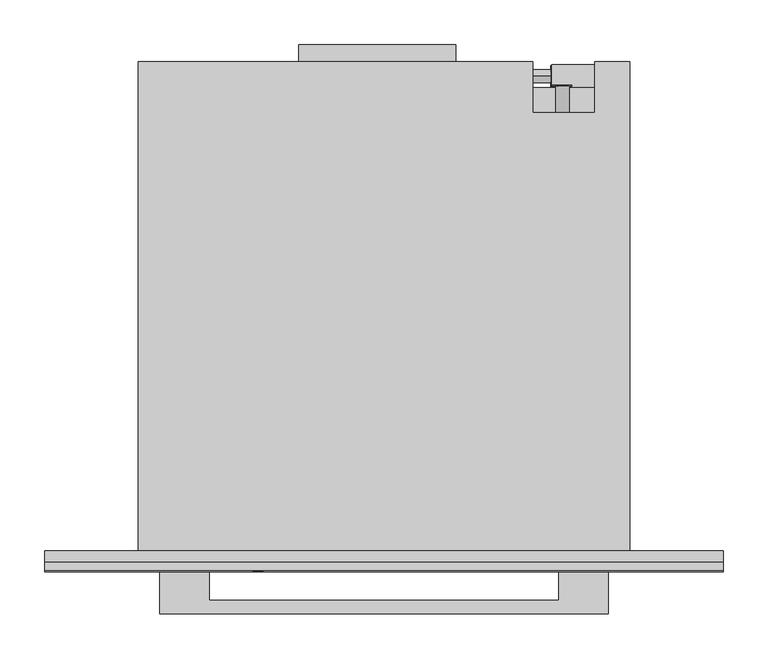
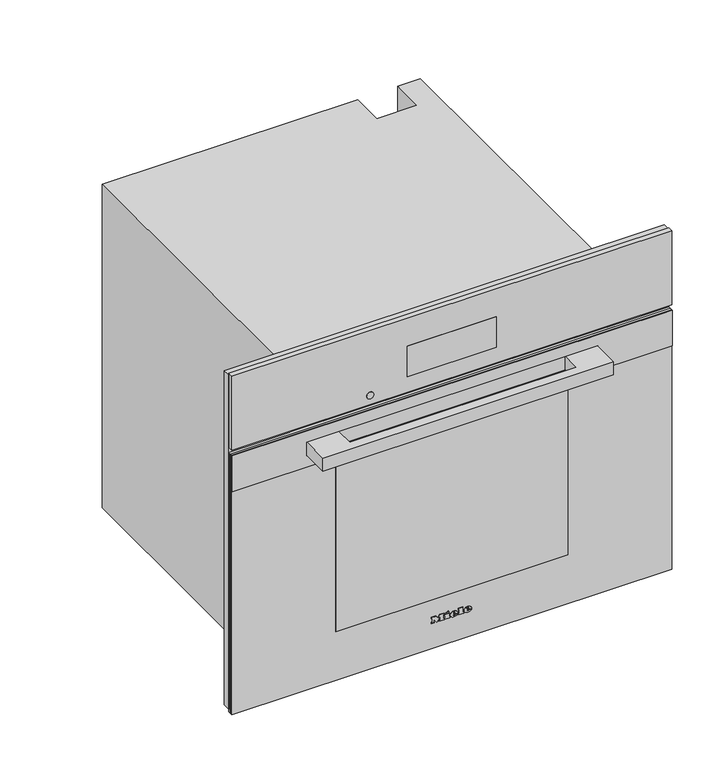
"""IFC4 building model written with IfcOpenShell, lengths in millimetres: proxy geometry, 11876310_USA_DGC7885_EDST-CLST : 23788543_USA_11876310_DGC7885_EDST-CLST."""

from ifc_helpers import new_model, si_unit, point, frame, frame_2d, origin, place, context, project, spatial, polyline, circle_curve, ellipse_curve, trimmed, segment, composite_curve, outline, extrude, faceted_brep, source, transform, mapped, element, save
from ifc_brep_helpers import plane_surface, cylinder_surface, revolved_surface, extruded_surface, advanced_brep


def specialty_equipment_7e705cc3(model_context):
    return source(origin(), model_context, "Body", "SolidModel", [
        faceted_brep([(378.5, -13.0, 617.0), (-378.5, -13.0, 617.0), (-378.5, -13.0, 9.0), (-272.5, -13.0, 9.0), (-272.5, -13.0, 485.0), (272.5, -13.0, 485.0), (272.5, -13.0, 9.0), (378.5, -13.0, 9.0), (378.5, 0.0, 617.0), (378.5, 0.0, 9.0), (-378.5, 0.0, 9.0), (-378.5, 0.0, 617.0), (231.0, 0.0, 61.0), (231.0, 0.0, 411.0), (-231.0, 0.0, 411.0), (-231.0, 0.0, 61.0), (272.5, -5.0, 9.0), (-272.5, -5.0, 9.0), (-272.5, -5.0, 485.0), (272.5, -5.0, 485.0), (231.0, -5.0, 411.0), (231.0, -5.0, 61.0), (-231.0, -5.0, 61.0), (-231.0, -5.0, 411.0)], [[[0, 1, 2, 3, 4, 5, 6, 7]], [[8, 9, 10, 11], [12, 13, 14, 15]], [[1, 0, 8, 11]], [[2, 1, 11, 10]], [[10, 9, 7, 6, 16, 17, 3, 2]], [[0, 7, 9, 8]], [[18, 19, 5, 4]], [[18, 4, 3, 17]], [[5, 19, 16, 6]], [[19, 18, 17, 16], [20, 21, 22, 23]], [[20, 13, 12, 21]], [[21, 12, 15, 22]], [[22, 15, 14, 23]], [[13, 20, 23, 14]]]),
        extrude(outline(polyline([(-95.0, 565.0), (80.0, 565.0), (80.0, 546.0), (-95.0, 546.0), (-95.0, 565.0)])), frame((0.0, 0.0, 311.0), z_axis=(0.0, 0.0, 1.0), x_axis=(1.0, 0.0, 0.0)), (0.0, 0.0, 1.0), 1.0),
        extrude(outline(polyline([(218.8383288, 522.0), (225.1236409, 522.0), (225.1236409, 511.9492425), (223.8571792, 511.9492425), (223.8571792, 520.7409796), (218.8383288, 520.7409796), (218.8383288, 522.0)])), frame((0.0, 0.0, 272.0), z_axis=(0.0, 0.0, 1.0), x_axis=(1.0, 0.0, 0.0)), (0.0, 0.0, 1.0), 1.0),
        extrude(outline(polyline([(227.0, 522.0), (234.3797826, 522.0), (234.3797826, 511.9503529), (227.15422, 511.9503529), (227.15422, 513.220938), (233.1355215, 513.220938), (233.1355215, 516.1975645), (227.4863097, 516.1975645), (227.4863097, 517.449242), (233.1355215, 517.449242), (233.1355215, 520.7448633), (227.0, 520.7448633), (227.0, 522.0)])), frame((0.0, 0.0, 272.0), z_axis=(0.0, 0.0, 1.0), x_axis=(1.0, 0.0, 0.0)), (0.0, 0.0, 1.0), 1.0),
        extrude(outline(polyline([(519.6429442, 19.9943805), (518.3113439, 19.9943805), (522.3179353, 30.0448542), (523.3959224, 30.0448542), (527.4062166, 20.0), (526.0536081, 20.0), (524.9175759, 23.121223), (520.7810217, 23.121223), (519.6429442, 19.9943805)]), holes=[polyline([(521.2587176, 24.4336815), (524.43988, 24.4336815), (522.8492988, 28.8037675), (521.2587176, 24.4336815)])]), frame((186.0, 0.0, 0.0), z_axis=(1.0, 0.0, 0.0), x_axis=(0.0, 1.0, 0.0)), (0.0, 0.0, 1.0), 1.0),
        extrude(outline(polyline([(530.5321321, 20.0), (527.8018067, 30.0490432), (529.0968223, 30.0490432), (531.1602937, 21.4201336), (533.686646, 30.0556718), (535.5455392, 30.0556718), (538.1024658, 21.4662572), (540.1658975, 30.0556718), (541.4634812, 30.0556718), (538.7128319, 20.0), (537.3799359, 20.0), (534.6350025, 28.8403806), (532.048723, 20.0), (530.5321321, 20.0)])), frame((186.0, 0.0, 0.0), z_axis=(1.0, 0.0, 0.0), x_axis=(0.0, 1.0, 0.0)), (0.0, 0.0, 1.0), 1.0),
        extrude(outline(composite_curve([segment(trimmed(circle_curve(frame_2d((227.0, 517.0)), 7.5), [point((219.5, 517.0))], [point((234.5, 517.0))], False, "CARTESIAN"), True, "CONTINUOUS"), segment(trimmed(circle_curve(frame_2d((227.0, 517.0)), 7.5), [point((234.5, 517.0))], [point((219.5, 517.0))], False, "CARTESIAN"), True, "CONTINUOUS")], self_intersect=False)), frame((0.0, 0.0, 273.0), z_axis=(0.0, 0.0, 1.0), x_axis=(1.0, 0.0, 0.0)), (0.0, 0.0, 1.0), 30.0),
        extrude(outline(polyline([(266.0, 517.0), (187.0, 517.0), (187.0, 543.0), (266.0, 543.0), (266.0, 517.0)])), frame((0.0, 0.0, 303.0), z_axis=(0.0, 0.0, 1.0), x_axis=(1.0, 0.0, 0.0)), (0.0, 0.0, 1.0), 111.0),
        extrude(outline(polyline([(523.0, 196.9217896), (523.0, 198.4267862), (533.0435673, 201.1942402), (533.0435673, 199.9014806), (524.4295103, 197.7797951), (533.0470645, 195.3087512), (533.0470645, 193.4373937), (524.4121052, 190.9191482), (533.0472266, 188.8443938), (533.0472266, 187.5376524), (523.0, 190.2769667), (523.0, 191.6257455), (531.8347238, 194.3884733), (523.0, 196.9217896)])), frame((0.0, 519.0, 0.0), z_axis=(0.0, 1.0, 0.0), x_axis=(0.0, 0.0, 1.0)), (0.0, 0.0, 1.0), 1.0),
        extrude(outline(polyline([(533.0468463, 209.521488), (533.0468463, 208.2566067), (528.129594, 208.2566067), (533.0474898, 203.1074328), (533.0474898, 201.3597489), (528.9313111, 205.6695027), (523.0, 201.1858157), (523.0, 202.7358731), (528.0700777, 206.5685235), (526.4282746, 208.2823622), (523.0, 208.2823622), (523.0, 209.521488), (533.0468463, 209.521488)])), frame((0.0, 519.0, 0.0), z_axis=(0.0, 1.0, 0.0), x_axis=(0.0, 0.0, 1.0)), (0.0, 0.0, 1.0), 1.0),
        extrude(outline(composite_curve([segment(trimmed(circle_curve(frame_2d((528.0, 199.0)), 7.5), [point((528.0, 206.5))], [point((528.0, 191.5))], False, "CARTESIAN"), True, "CONTINUOUS"), segment(trimmed(circle_curve(frame_2d((528.0, 199.0)), 7.5), [point((528.0, 191.5))], [point((528.0, 206.5))], False, "CARTESIAN"), True, "CONTINUOUS")], self_intersect=False)), frame((0.0, 489.0, 0.0), z_axis=(0.0, 1.0, 0.0), x_axis=(0.0, 0.0, 1.0)), (0.0, 0.0, 1.0), 30.0),
        extrude(outline(composite_curve([segment(trimmed(circle_curve(frame_2d((530.0, 25.0)), 7.5), [point((530.0, 17.5))], [point((530.0, 32.5))], False, "CARTESIAN"), True, "CONTINUOUS"), segment(trimmed(circle_curve(frame_2d((530.0, 25.0)), 7.5), [point((530.0, 32.5))], [point((530.0, 17.5))], False, "CARTESIAN"), True, "CONTINUOUS")], self_intersect=False)), frame((166.0, 0.0, 0.0), z_axis=(1.0, 0.0, 0.0), x_axis=(0.0, 1.0, 0.0)), (0.0, 0.0, 1.0), 20.0),
        faceted_brep([(-274.0, 546.0, 0.0), (-274.0, 546.0, 588.0), (166.0, 546.0, 588.0), (166.0, 546.0, 0.0), (235.0, 546.0, 588.0), (274.0, 546.0, 588.0), (274.0, 546.0, 478.0), (235.0, 546.0, 478.0), (274.0, 0.0, 588.0), (-274.0, 0.0, 588.0), (-274.0, 0.0, 0.0), (274.0, 0.0, 0.0), (231.0, 0.0, 411.0), (231.0, 0.0, 61.0), (-231.0, 0.0, 61.0), (-231.0, 0.0, 411.0), (235.0, 489.0, 588.0), (166.0, 489.0, 588.0), (166.0, 517.0, 0.0), (274.0, 517.0, 0.0), (274.0, 517.0, 478.0), (231.0, 411.0, 411.0), (-231.0, 411.0, 411.0), (-231.0, 411.0, 61.0), (231.0, 411.0, 61.0), (235.0, 489.0, 477.0), (166.0, 489.0, 477.0), (166.0, 517.0, 477.0), (235.0, 517.0, 477.0), (235.0, 517.0, 478.0)], [[[0, 1, 2, 3]], [[4, 5, 6, 7]], [[8, 9, 10, 11], [12, 13, 14, 15]], [[9, 8, 5, 4, 16, 17, 2, 1]], [[1, 0, 10, 9]], [[11, 10, 0, 3, 18, 19]], [[8, 11, 19, 20, 6, 5]], [[21, 22, 23, 24]], [[21, 24, 13, 12]], [[24, 23, 14, 13]], [[23, 22, 15, 14]], [[22, 21, 12, 15]], [[16, 25, 26, 17]], [[17, 26, 27, 18, 3, 2]], [[26, 25, 28, 27]], [[25, 16, 4, 7, 29, 28]], [[29, 20, 19, 18, 27, 28]], [[20, 29, 7, 6]]]),
        advanced_brep(
        [(26.2998, -23.0, 52.7018), (26.2998, -23.0, 53.8532), (33.9264, -23.0, 53.8532), (20.6568, -23.0, 53.8532), (23.7918, -23.0, 50.0), (33.7326, -23.0, 52.7018), (30.2898, -23.0, 52.7018), (27.5766, -23.0, 51.425), (26.2998, -23.0, 55.3124), (26.2998, -23.0, 56.555), (28.2492, -23.0, 56.555), (28.2492, -23.0, 55.3124), (26.2998, -22.0, 52.7018), (27.5766, -22.0, 51.425), (30.2898, -22.0, 52.7018), (33.7326, -22.0, 52.7018), (23.7918, -22.0, 50.0), (20.6568, -22.0, 53.8532), (33.9264, -22.0, 53.8532), (26.2998, -22.0, 53.8532), (26.2998, -22.0, 55.3124), (28.2492, -22.0, 55.3124), (28.2492, -22.0, 56.555), (26.2998, -22.0, 56.555)],
        [
            (0, 1),
            (1, 2),
            (2, 3, ellipse_curve(frame((27.2916, -23.0, 53.8532), z_axis=(0.0, -1.0, 0.0), x_axis=(-1.0, 0.0, 0.0)), 6.6348, 5.4834)),
            (3, 4, circle_curve(frame((25.0686622, -23.0, 54.2408), z_axis=(0.0, -1.0, 0.0), x_axis=(0.0, 0.0, -1.0)), 4.4288556)),
            (4, 5, circle_curve(frame((27.1587808, -23.0, 57.2504), z_axis=(0.0, -1.0, 0.0), x_axis=(0.0, 0.0, -1.0)), 7.9940516)),
            (5, 6),
            (6, 7, circle_curve(frame((28.1338588, -23.0, 53.762), z_axis=(0.0, 1.0, 0.0), x_axis=(0.0, 0.0, -1.0)), 2.4025208)),
            (7, 0, circle_curve(frame((27.5766, -23.0, 52.7018), z_axis=(0.0, 1.0, 0.0), x_axis=(0.0, 0.0, -1.0)), 1.2768)),
            (8, 9),
            (9, 10, circle_curve(frame((27.2745, -23.0, 56.555), z_axis=(0.0, 1.0, 0.0), x_axis=(0.0, 0.0, -1.0)), 0.9747)),
            (10, 11),
            (11, 8),
            (12, 13, circle_curve(frame((27.5766, -22.0, 52.7018), z_axis=(0.0, -1.0, 0.0), x_axis=(0.0, 0.0, -1.0)), 1.2768)),
            (13, 14, circle_curve(frame((28.1338588, -22.0, 53.762), z_axis=(0.0, -1.0, 0.0), x_axis=(0.0, 0.0, -1.0)), 2.4025208)),
            (14, 15),
            (15, 16, circle_curve(frame((27.1587808, -22.0, 57.2504), z_axis=(0.0, 1.0, 0.0), x_axis=(0.0, 0.0, -1.0)), 7.9940516)),
            (16, 17, circle_curve(frame((25.0686622, -22.0, 54.2408), z_axis=(0.0, 1.0, 0.0), x_axis=(0.0, 0.0, -1.0)), 4.4288556)),
            (17, 18, ellipse_curve(frame((27.2916, -22.0, 53.8532), z_axis=(0.0, 1.0, 0.0), x_axis=(-1.0, 0.0, 0.0)), 6.6348, 5.4834)),
            (18, 19),
            (19, 12),
            (20, 21),
            (21, 22),
            (22, 23, circle_curve(frame((27.2745, -22.0, 56.555), z_axis=(0.0, -1.0, 0.0), x_axis=(0.0, 0.0, -1.0)), 0.9747)),
            (23, 20),
            (0, 12),
            (19, 1),
            (18, 2),
            (5, 15),
            (14, 6),
            (17, 3),
            (13, 7),
            (16, 4),
            (8, 20),
            (23, 9),
            (22, 10),
            (21, 11),
        ],
        [
            plane_surface(frame((26.2998, -23.0, 53.8532), z_axis=(0.0, -1.0, 0.0), x_axis=(0.0, 0.0, 1.0))),
            plane_surface(frame((26.2998, -22.0, 53.8532), z_axis=(0.0, 1.0, 0.0), x_axis=(0.0, 0.0, -1.0))),
            plane_surface(frame((26.2998, -23.0, 52.7018), z_axis=(1.0, 0.0, 0.0), x_axis=(0.0, 1.0, 0.0))),
            plane_surface(frame((26.2998, -23.0, 53.8532), z_axis=(0.0, 0.0, -1.0), x_axis=(0.0, 1.0, 0.0))),
            plane_surface(frame((33.7326, -23.0, 52.7018), z_axis=(0.0, 0.0, 1.0), x_axis=(0.0, 1.0, 0.0))),
            extruded_surface(trimmed(ellipse_curve(frame((27.2916, -21.0, 53.8532), z_axis=(0.0, -1.0, 0.0), x_axis=(-1.0, 0.0, 0.0)), 6.6348, 5.4834), [point((33.9264, -21.0, 53.8532))], [point((20.6568, -21.0, 53.8532))], True, "CARTESIAN"), (0.0, -1.0, 0.0), 1.0),
            revolved_surface(polyline([(28.1338588, -22.0, 51.3594792), (28.1338588, -23.0, 51.3594792)]), (28.1338588, -22.0, 53.762), (0.0, 1.0, 0.0)),
            revolved_surface(polyline([(27.5766, -22.0, 51.425), (27.5766, -23.0, 51.425)]), (27.5766, -22.0, 52.7018), (0.0, 1.0, 0.0)),
            cylinder_surface(frame((25.0686622, -22.0, 54.2408), z_axis=(0.0, -1.0, 0.0), x_axis=(0.0, 0.0, -1.0)), 4.4288556),
            cylinder_surface(frame((27.1587808, -22.0, 57.2504), z_axis=(0.0, -1.0, 0.0), x_axis=(0.0, 0.0, -1.0)), 7.9940516),
            plane_surface(frame((26.2998, -23.0, 55.3124), z_axis=(1.0, 0.0, 0.0), x_axis=(0.0, 1.0, 0.0))),
            revolved_surface(polyline([(27.2745, -22.0, 55.5803), (27.2745, -23.0, 55.5803)]), (27.2745, -22.0, 56.555), (0.0, 1.0, 0.0)),
            plane_surface(frame((28.2492, -23.0, 56.555), z_axis=(-1.0, 0.0, 0.0), x_axis=(0.0, 1.0, 0.0))),
            plane_surface(frame((28.2492, -23.0, 55.3124), z_axis=(0.0, 0.0, 1.0), x_axis=(0.0, 1.0, 0.0))),
        ],
        [
            (0, [[1, 2, 3, 4, 5, 6, 7, 8], [9, 10, 11, 12]]),
            (1, [[13, 14, 15, 16, 17, 18, 19, 20], [21, 22, 23, 24]]),
            (2, [[-1, 25, -20, 26]]),
            (3, [[-2, -26, -19, 27]]),
            (4, [[-6, 28, -15, 29]]),
            (5, [[-3, -27, -18, 30]]),
            (6, [[-7, -29, -14, 31]]),
            (7, [[-8, -31, -13, -25]]),
            (8, [[-4, -30, -17, 32]]),
            (9, [[-5, -32, -16, -28]]),
            (10, [[-9, 33, -24, 34]]),
            (11, [[-10, -34, -23, 35]]),
            (12, [[-11, -35, -22, 36]]),
            (13, [[-12, -36, -21, -33]]),
        ],
    ),
        advanced_brep(
        [(2.508, -23.0, 52.7018), (2.508, -23.0, 53.8532), (10.1346, -23.0, 53.8532), (-3.135, -23.0, 53.8532), (0.0, -23.0, 50.0), (9.9408, -23.0, 52.7018), (6.498, -23.0, 52.7018), (3.7848, -23.0, 51.425), (2.508, -23.0, 55.3124), (2.508, -23.0, 56.555), (4.4574, -23.0, 56.555), (4.4574, -23.0, 55.3124), (2.508, -22.0, 52.7018), (3.7848, -22.0, 51.425), (6.498, -22.0, 52.7018), (9.9408, -22.0, 52.7018), (0.0, -22.0, 50.0), (-3.135, -22.0, 53.8532), (10.1346, -22.0, 53.8532), (2.508, -22.0, 53.8532), (2.508, -22.0, 55.3124), (4.4574, -22.0, 55.3124), (4.4574, -22.0, 56.555), (2.508, -22.0, 56.555)],
        [
            (0, 1),
            (1, 2),
            (2, 3, ellipse_curve(frame((3.4998, -23.0, 53.8532), z_axis=(0.0, -1.0, 0.0), x_axis=(-1.0, 0.0, 0.0)), 6.6348, 5.4834)),
            (3, 4, circle_curve(frame((1.2768622, -23.0, 54.2408), z_axis=(0.0, -1.0, 0.0), x_axis=(0.0, 0.0, -1.0)), 4.4288556)),
            (4, 5, circle_curve(frame((3.3669808, -23.0, 57.2504), z_axis=(0.0, -1.0, 0.0), x_axis=(0.0, 0.0, -1.0)), 7.9940516)),
            (5, 6),
            (6, 7, circle_curve(frame((4.3420588, -23.0, 53.762), z_axis=(0.0, 1.0, 0.0), x_axis=(0.0, 0.0, -1.0)), 2.4025208)),
            (7, 0, circle_curve(frame((3.7848, -23.0, 52.7018), z_axis=(0.0, 1.0, 0.0), x_axis=(0.0, 0.0, -1.0)), 1.2768)),
            (8, 9),
            (9, 10, circle_curve(frame((3.4827, -23.0, 56.555), z_axis=(0.0, 1.0, 0.0), x_axis=(0.0, 0.0, -1.0)), 0.9747)),
            (10, 11),
            (11, 8),
            (12, 13, circle_curve(frame((3.7848, -22.0, 52.7018), z_axis=(0.0, -1.0, 0.0), x_axis=(0.0, 0.0, -1.0)), 1.2768)),
            (13, 14, circle_curve(frame((4.3420588, -22.0, 53.762), z_axis=(0.0, -1.0, 0.0), x_axis=(0.0, 0.0, -1.0)), 2.4025208)),
            (14, 15),
            (15, 16, circle_curve(frame((3.3669808, -22.0, 57.2504), z_axis=(0.0, 1.0, 0.0), x_axis=(0.0, 0.0, -1.0)), 7.9940516)),
            (16, 17, circle_curve(frame((1.2768622, -22.0, 54.2408), z_axis=(0.0, 1.0, 0.0), x_axis=(0.0, 0.0, -1.0)), 4.4288556)),
            (17, 18, ellipse_curve(frame((3.4998, -22.0, 53.8532), z_axis=(0.0, 1.0, 0.0), x_axis=(-1.0, 0.0, 0.0)), 6.6348, 5.4834)),
            (18, 19),
            (19, 12),
            (20, 21),
            (21, 22),
            (22, 23, circle_curve(frame((3.4827, -22.0, 56.555), z_axis=(0.0, -1.0, 0.0), x_axis=(0.0, 0.0, -1.0)), 0.9747)),
            (23, 20),
            (0, 12),
            (19, 1),
            (18, 2),
            (5, 15),
            (14, 6),
            (17, 3),
            (13, 7),
            (16, 4),
            (8, 20),
            (23, 9),
            (22, 10),
            (21, 11),
        ],
        [
            plane_surface(frame((2.508, -23.0, 53.8532), z_axis=(0.0, -1.0, 0.0), x_axis=(0.0, 0.0, 1.0))),
            plane_surface(frame((2.508, -22.0, 53.8532), z_axis=(0.0, 1.0, 0.0), x_axis=(0.0, 0.0, -1.0))),
            plane_surface(frame((2.508, -23.0, 52.7018), z_axis=(1.0, 0.0, 0.0), x_axis=(0.0, 1.0, 0.0))),
            plane_surface(frame((2.508, -23.0, 53.8532), z_axis=(0.0, 0.0, -1.0), x_axis=(0.0, 1.0, 0.0))),
            plane_surface(frame((9.9408, -23.0, 52.7018), z_axis=(0.0, 0.0, 1.0), x_axis=(0.0, 1.0, 0.0))),
            extruded_surface(trimmed(ellipse_curve(frame((3.4998, -21.0, 53.8532), z_axis=(0.0, -1.0, 0.0), x_axis=(-1.0, 0.0, 0.0)), 6.6348, 5.4834), [point((10.1346, -21.0, 53.8532))], [point((-3.135, -21.0, 53.8532))], True, "CARTESIAN"), (0.0, -1.0, 0.0), 1.0),
            revolved_surface(polyline([(4.3420588, -22.0, 51.3594792), (4.3420588, -23.0, 51.3594792)]), (4.3420588, -22.0, 53.762), (0.0, 1.0, 0.0)),
            revolved_surface(polyline([(3.7848, -22.0, 51.425), (3.7848, -23.0, 51.425)]), (3.7848, -22.0, 52.7018), (0.0, 1.0, 0.0)),
            cylinder_surface(frame((1.2768622, -22.0, 54.2408), z_axis=(0.0, -1.0, 0.0), x_axis=(0.0, 0.0, -1.0)), 4.4288556),
            cylinder_surface(frame((3.3669808, -22.0, 57.2504), z_axis=(0.0, -1.0, 0.0), x_axis=(0.0, 0.0, -1.0)), 7.9940516),
            plane_surface(frame((2.508, -23.0, 55.3124), z_axis=(1.0, 0.0, 0.0), x_axis=(0.0, 1.0, 0.0))),
            revolved_surface(polyline([(3.4827, -22.0, 55.5803), (3.4827, -23.0, 55.5803)]), (3.4827, -22.0, 56.555), (0.0, 1.0, 0.0)),
            plane_surface(frame((4.4574, -23.0, 56.555), z_axis=(-1.0, 0.0, 0.0), x_axis=(0.0, 1.0, 0.0))),
            plane_surface(frame((4.4574, -23.0, 55.3124), z_axis=(0.0, 0.0, 1.0), x_axis=(0.0, 1.0, 0.0))),
        ],
        [
            (0, [[1, 2, 3, 4, 5, 6, 7, 8], [9, 10, 11, 12]]),
            (1, [[13, 14, 15, 16, 17, 18, 19, 20], [21, 22, 23, 24]]),
            (2, [[-1, 25, -20, 26]]),
            (3, [[-2, -26, -19, 27]]),
            (4, [[-6, 28, -15, 29]]),
            (5, [[-3, -27, -18, 30]]),
            (6, [[-7, -29, -14, 31]]),
            (7, [[-8, -31, -13, -25]]),
            (8, [[-4, -30, -17, 32]]),
            (9, [[-5, -32, -16, -28]]),
            (10, [[-9, 33, -24, 34]]),
            (11, [[-10, -34, -23, 35]]),
            (12, [[-11, -35, -22, 36]]),
            (13, [[-12, -36, -21, -33]]),
        ],
    ),
        extrude(outline(polyline([(60.7274, -9.9522), (58.8806, -9.0858), (60.6818, -5.2212), (62.5286, -6.0762), (60.7274, -9.9522)])), frame((0.0, -23.0, 0.0), z_axis=(0.0, 1.0, 0.0), x_axis=(0.0, 0.0, 1.0)), (0.0, 0.0, 1.0), 1.0),
        extrude(outline(polyline([(58.6298, -12.768), (56.5892, -12.768), (56.5892, -11.4114), (51.9152, -11.4114), (51.9152, -12.768), (50.0, -12.768), (50.0, -3.7734), (51.9152, -3.7734), (51.9152, -5.0958), (58.6298, -5.0958), (58.6298, -12.768)])), frame((0.0, -23.0, 0.0), z_axis=(0.0, 1.0, 0.0), x_axis=(0.0, 0.0, 1.0)), (0.0, 0.0, 1.0), 1.0),
        extrude(outline(polyline([(59.5418, 10.773), (59.5418, 12.141), (51.9152, 12.141), (51.9152, 10.773), (50.0, 10.773), (50.0, 20.0184), (51.9152, 20.0184), (51.9152, 18.6162), (61.4, 18.6162), (61.4, 10.773), (59.5418, 10.773)])), frame((0.0, -23.0, 0.0), z_axis=(0.0, 1.0, 0.0), x_axis=(0.0, 0.0, 1.0)), (0.0, 0.0, 1.0), 1.0),
        extrude(outline(polyline([(59.5418, -35.4882), (59.5418, -34.1088), (51.9152, -34.1088), (51.9152, -35.4882), (50.0, -35.4882), (50.0, -30.4722), (51.9152, -30.4722), (51.9152, -31.8402), (56.7429247, -31.8402), (50.0, -26.7444), (56.9402223, -21.6258), (51.9152, -21.6258), (51.9152, -23.028), (50.0, -23.028), (50.0, -13.9308), (51.9152, -13.9308), (51.9152, -15.3786), (59.5418, -15.3786), (59.5418, -13.9308), (61.4, -13.9308), (61.4, -20.8734), (57.125, -24.2022), (61.4, -27.5424), (61.4, -35.4882), (59.5418, -35.4882)])), frame((0.0, -23.0, 0.0), z_axis=(0.0, 1.0, 0.0), x_axis=(0.0, 0.0, 1.0)), (0.0, 0.0, 1.0), 1.0),
        extrude(outline(composite_curve([segment(trimmed(circle_curve(frame_2d((502.0, -140.5745637)), 6.0), [point((502.0, -146.5745637))], [point((502.0, -134.5745637))], False, "CARTESIAN"), True, "CONTINUOUS"), segment(trimmed(circle_curve(frame_2d((502.0, -140.5745637)), 6.0), [point((502.0, -134.5745637))], [point((502.0, -146.5745637))], False, "CARTESIAN"), True, "CONTINUOUS")], self_intersect=False)), frame((0.0, -22.5, 0.0), z_axis=(0.0, 1.0, 0.0), x_axis=(0.0, 0.0, 1.0)), (0.0, 0.0, 1.0), 1.0),
        extrude(outline(polyline([(-76.5, -21.0), (76.5, -21.0), (76.5, -22.0), (-76.5, -22.0), (-76.5, -21.0)])), frame((0.0, 0.0, 513.0), z_axis=(0.0, 0.0, 1.0), x_axis=(1.0, 0.0, 0.0)), (0.0, 0.0, 1.0), 56.0),
        faceted_brep([(378.5, -22.0, 620.0), (-378.5, -22.0, 620.0), (-378.5, -22.0, 485.0), (378.5, -22.0, 485.0), (76.5, -22.0, 569.0), (76.5, -22.0, 513.0), (-76.5, -22.0, 513.0), (-76.5, -22.0, 569.0), (378.5, -13.0, 620.0), (378.5, -13.0, 485.0), (-378.5, -13.0, 485.0), (-378.5, -13.0, 620.0), (76.5, -21.0, 569.0), (-76.5, -21.0, 569.0), (-76.5, -21.0, 513.0), (76.5, -21.0, 513.0)], [[[0, 1, 2, 3], [4, 5, 6, 7]], [[8, 9, 10, 11]], [[1, 0, 8, 11]], [[2, 1, 11, 10]], [[3, 2, 10, 9]], [[0, 3, 9, 8]], [[12, 13, 14, 15]], [[12, 15, 5, 4]], [[15, 14, 6, 5]], [[14, 13, 7, 6]], [[13, 12, 4, 7]]]),
        extrude(outline(polyline([(200.0, -22.0), (-200.0, -22.0), (-200.0, -18.0), (200.0, -18.0), (200.0, -22.0)])), frame((0.0, 0.0, 92.5), z_axis=(0.0, 0.0, 1.0), x_axis=(1.0, 0.0, 0.0)), (0.0, 0.0, 1.0), 300.0),
        extrude(outline(polyline([(476.0, 378.5), (476.0, -378.5), (4.0, -378.5), (4.0, 378.5), (476.0, 378.5)]), holes=[polyline([(392.5, -200.0), (392.5, 200.0), (92.5, 200.0), (92.5, -200.0), (392.5, -200.0)])]), frame((0.0, -22.0, 0.0), z_axis=(0.0, 1.0, 0.0), x_axis=(0.0, 0.0, 1.0)), (0.0, 0.0, 1.0), 4.0),
        extrude(outline(polyline([(476.0, 378.5), (476.0, -378.5), (411.0, -378.5), (411.0, 378.5), (476.0, 378.5)]), holes=[polyline([(456.0, -250.5), (456.0, 250.5), (431.0, 250.5), (431.0, -250.5), (456.0, -250.5)])]), frame((0.0, -23.3, 0.0), z_axis=(0.0, 1.0, 0.0), x_axis=(0.0, 0.0, 1.0)), (0.0, 0.0, 1.0), 1.3),
        extrude(outline(polyline([(-250.0, -70.3), (-250.0, -22.0), (-195.0, -22.0), (-195.0, -55.3), (195.0, -55.3), (195.0, -22.0), (250.0, -22.0), (250.0, -70.3), (-250.0, -70.3)])), frame((0.0, 0.0, 431.5), z_axis=(0.0, 0.0, 1.0), x_axis=(1.0, 0.0, 0.0)), (0.0, 0.0, 1.0), 24.0),
        extrude(outline(polyline([(378.5, -18.0), (-378.5, -18.0), (-378.5, -13.0), (378.5, -13.0), (378.5, -18.0)])), frame((0.0, 0.0, 4.0), z_axis=(0.0, 0.0, 1.0), x_axis=(1.0, 0.0, 0.0)), (0.0, 0.0, 1.0), 472.0),
    ])


if __name__ == "__main__":
    model = new_model("IFC4")
    model_context = context("Model", 3, world=origin())
    ifc_project = project(units=[si_unit("LENGTHUNIT", "METRE", prefix="MILLI")], contexts=[model_context])
    site = spatial("IfcSite", under=ifc_project)
    building = spatial("IfcBuilding", under=site)
    placement = place(None, origin())
    specialty_equipment_shape = specialty_equipment_7e705cc3(model_context)
    element("IfcBuildingElementProxy", 1, Name="11876310_USA_DGC7885_EDST-CLST : 23788543_USA_11876310_DGC7885_EDST-CLST", ObjectType="11876310_USA_DGC7885_EDST-CLST : 23788543_USA_11876310_DGC7885_EDST-CLST", at=placement, inside=building, context=model_context, shape_type="MappedRepresentation", body=[
        mapped(specialty_equipment_shape, transform((0.0, 0.0, 0.0), x_axis=(1.0, 0.0, 0.0), y_axis=(0.0, 1.0, 0.0), z_axis=(0.0, 0.0, 1.0))),
    ])
    save(model, "model.ifc")
